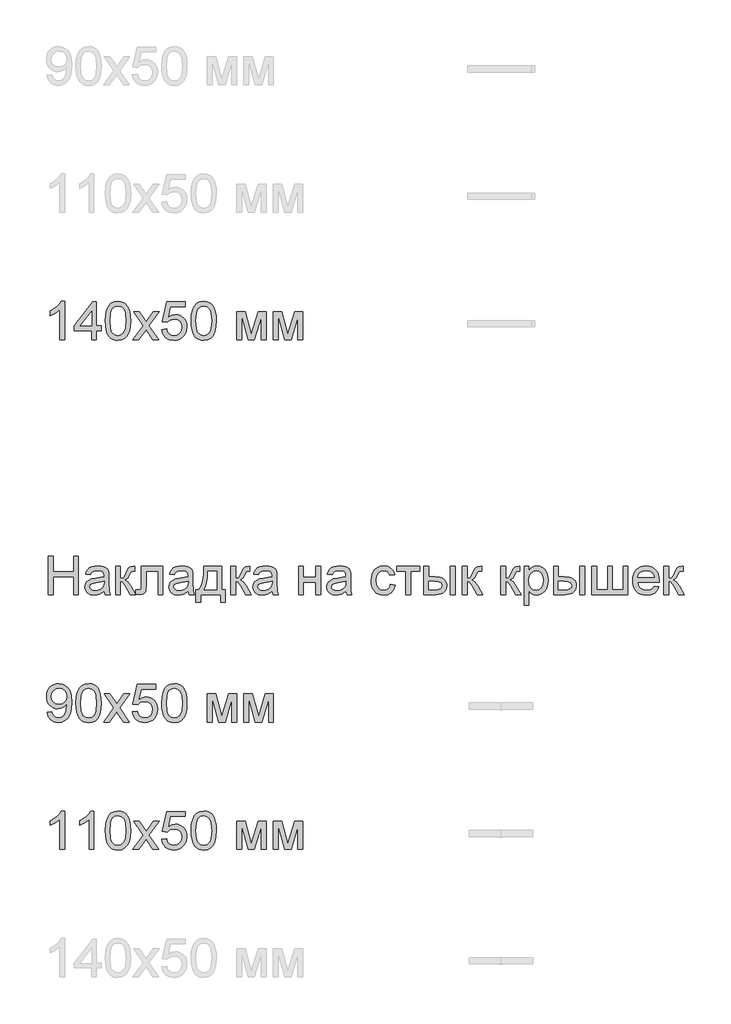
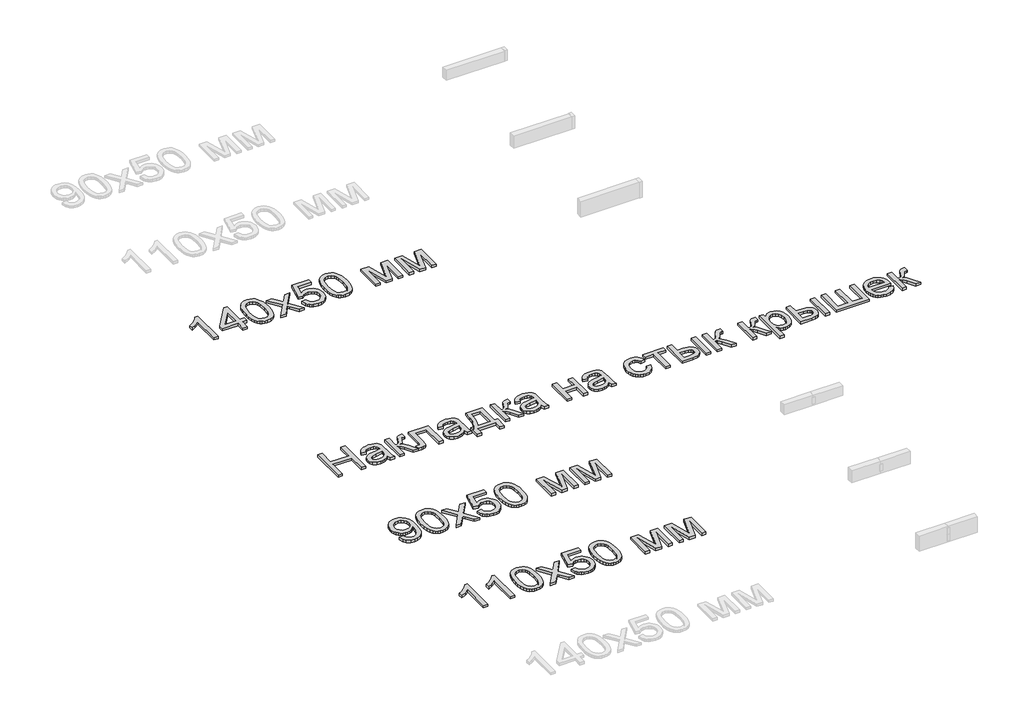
# One storey, part 85 of 168: 4 proxies.
"""IFC4 building model written with IfcOpenShell, lengths in millimetres."""

from ifc_helpers import new_model, si_unit, origin, origin_with_axes, place, context, project, spatial, polyline, outline, extrude, element, save

model = new_model("IFC4")

# Units and contexts
model_context = context("Model", 3, world=origin())
ifc_project = project(units=[si_unit("LENGTHUNIT", "METRE", prefix="MILLI")], contexts=[model_context])

# Site, building, storey
site = spatial("IfcSite", under=ifc_project)
building = spatial("IfcBuilding", under=site)
storey = spatial("IfcBuildingStorey", under=building, Name="Этаж 01", Elevation=0.0)

# Proxies
placement = place(None, origin())
element("IfcBuildingElementProxy", 1, Name="300 мм Arial 2", ObjectType="300 мм Arial 2", at=placement, inside=storey, context=model_context, shape_type="SweptSolid", body=[
    extrude(outline(polyline([(18205.9577491, -20148.4056816), (18168.2866328, -20148.4056816), (18168.2866328, -19913.5498158), (18132.6020793, -19938.9704617), (18092.9444002, -19957.9899609), (18092.9444002, -19922.3789837), (18122.5313096, -19906.2841464), (18148.1634877, -19887.1358886), (18168.3694062, -19866.7736202), (18181.6775374, -19847.0367511), (18205.9577491, -19847.0367511), (18205.9577491, -20148.4056816)])), origin_with_axes(), (0.0, 0.0, 1.0), 20.0),
    extrude(outline(polyline([(18417.8577783, -20148.4056816), (18417.8577783, -20077.7723385), (18281.2999817, -20077.7723385), (18281.2999817, -20040.1012222), (18427.2755574, -19851.7456407), (18455.5288946, -19851.7456407), (18455.5288946, -20040.1012222), (18493.2000109, -20040.1012222), (18493.2000109, -20077.7723385), (18455.5288946, -20077.7723385), (18455.5288946, -20148.4056816), (18417.8577783, -20148.4056816)]), holes=[polyline([(18417.8577783, -20040.1012222), (18417.8577783, -19923.7033589), (18327.6531131, -20040.1012222), (18417.8577783, -20040.1012222)])]), origin_with_axes(), (0.0, 0.0, 1.0), 20.0),
    extrude(outline(polyline([(18526.1622377, -20000.1492375), (18528.9305497, -19951.9107109), (18537.2354858, -19913.4394512), (18550.9942724, -19884.1468474), (18570.1241361, -19863.4442881), (18594.7630327, -19851.1386354), (18625.048918, -19847.0367511), (18648.2622719, -19849.4647723), (18669.0476046, -19856.7488358), (18686.4300289, -19868.6038331), (18699.4346574, -19884.7446556), (18709.2571067, -19905.0333477), (18717.0929932, -19929.3319534), (18722.224947, -19960.1880558), (18723.9355983, -20000.1492375), (18721.1948774, -20048.1118526), (18712.9727148, -20086.4911418), (18699.2967017, -20115.8113368), (18680.1944291, -20136.5966695), (18655.5003502, -20148.9850957), (18625.048918, -20153.1145711), (18604.3003735, -20151.3211464), (18585.9062737, -20145.9408722), (18569.8666187, -20136.9737486), (18556.1814085, -20124.4197755), (18543.0480213, -20101.7260549), (18533.6670304, -20073.4497251), (18528.0384359, -20039.5907859), (18526.1622377, -20000.1492375)]), holes=[polyline([(18563.833354, -20000.0756611), (18568.2479379, -20059.3322535), (18573.7661679, -20079.6002522), (18581.4916898, -20093.6280525), (18601.2101647, -20109.9896042), (18625.048918, -20115.4434548), (18648.8876713, -20109.9712101), (18668.6061462, -20093.5544761), (18676.3316681, -20079.5036831), (18681.8498981, -20059.240283), (18686.264482, -20000.0756611), (18681.9970509, -19942.152641), (18676.6627619, -19921.9513209), (18669.1947574, -19907.5901275), (18649.5130707, -19890.4284325), (18624.6074596, -19884.7078674), (18601.0262237, -19889.7478508), (18582.080301, -19904.8678008), (18574.0972617, -19920.5027856), (18568.3950907, -19941.5824239), (18563.833354, -20000.0756611)])]), origin_with_axes(), (0.0, 0.0, 1.0), 20.0),
    extrude(outline(polyline([(18742.7711565, -20148.4056816), (18823.263737, -20037.1581662), (18747.480046, -19927.0878733), (18792.8031078, -19927.0878733), (18829.3705781, -19980.0628806), (18846.4403027, -20005.0788562), (18861.2291589, -19984.6246173), (18902.8734008, -19927.0878733), (18948.1964626, -19927.0878733), (18868.5867988, -20037.1581662), (18945.2534066, -20148.4056816), (18899.9303448, -20148.4056816), (18853.7979426, -20081.5247348), (18845.3366567, -20069.3110526), (18788.0942183, -20148.4056816), (18742.7711565, -20148.4056816)])), origin_with_axes(), (0.0, 0.0, 1.0), 20.0),
    extrude(outline(polyline([(18968.7978543, -20068.3545594), (19006.4689706, -20063.6456699), (19013.3851521, -20086.2612155), (19025.4516816, -20102.4572204), (19042.6133766, -20112.1968962), (19064.815055, -20115.4434548), (19091.8175935, -20110.9277033), (19112.0511032, -20097.3804488), (19124.6878498, -20076.3651899), (19128.9000986, -20049.4454249), (19124.9545642, -20024.0983554), (19113.117961, -20004.7109743), (19093.2983185, -19992.4053215), (19065.4036662, -19988.3034373), (19047.1291281, -19989.9405121), (19032.3310749, -19994.8517368), (19011.1778601, -20011.847885), (18973.5067438, -20007.1389954), (19006.4689706, -19851.7456407), (19152.4445463, -19851.7456407), (19152.4445463, -19889.416757), (19036.9295998, -19889.416757), (19020.8163684, -19972.4109351), (19047.7269364, -19956.0769745), (19075.9250913, -19950.632321), (19094.2709065, -19952.3199796), (19111.1222012, -19957.3829556), (19126.4789752, -19965.8212488), (19140.3412286, -19977.6348594), (19151.8168476, -19992.1018189), (19160.0137183, -20008.5001588), (19164.9318408, -20026.8298792), (19166.5712149, -20047.0909801), (19160.6667089, -20084.7620964), (19153.2860764, -20101.5559095), (19142.9531908, -20116.9885592), (19127.2998119, -20132.7936894), (19109.0344709, -20144.0830681), (19088.1571676, -20150.8566954), (19064.6679022, -20153.1145711), (19027.6681706, -20147.3112326), (19011.9894998, -20140.0570595), (18998.1916257, -20129.9012172), (18986.7114082, -20117.3495434), (18977.9857071, -20102.9078758), (18968.7978543, -20068.3545594)])), origin_with_axes(), (0.0, 0.0, 1.0), 20.0),
    extrude(outline(polyline([(19199.5334417, -20000.1492375), (19202.3017537, -19951.9107109), (19210.6066897, -19913.4394512), (19224.3654763, -19884.1468474), (19243.4953401, -19863.4442881), (19268.1342367, -19851.1386354), (19298.420122, -19847.0367511), (19321.6334759, -19849.4647723), (19342.4188086, -19856.7488358), (19359.8012329, -19868.6038331), (19372.8058614, -19884.7446556), (19382.6283107, -19905.0333477), (19390.4641972, -19929.3319534), (19395.596151, -19960.1880558), (19397.3068023, -20000.1492375), (19394.5660814, -20048.1118526), (19386.3439188, -20086.4911418), (19372.6679056, -20115.8113368), (19353.565633, -20136.5966695), (19328.8715541, -20148.9850957), (19298.420122, -20153.1145711), (19277.6715774, -20151.3211464), (19259.2774777, -20145.9408722), (19243.2378227, -20136.9737486), (19229.5526125, -20124.4197755), (19216.4192252, -20101.7260549), (19207.0382344, -20073.4497251), (19201.4096398, -20039.5907859), (19199.5334417, -20000.1492375)]), holes=[polyline([(19237.204558, -20000.0756611), (19241.6191419, -20059.3322535), (19247.1373718, -20079.6002522), (19254.8628937, -20093.6280525), (19274.5813687, -20109.9896042), (19298.420122, -20115.4434548), (19322.2588753, -20109.9712101), (19341.9773502, -20093.5544761), (19349.7028721, -20079.5036831), (19355.221102, -20059.240283), (19359.635686, -20000.0756611), (19355.3682548, -19942.152641), (19350.0339659, -19921.9513209), (19342.5659614, -19907.5901275), (19322.8842747, -19890.4284325), (19297.9786636, -19884.7078674), (19274.3974277, -19889.7478508), (19255.4515049, -19904.8678008), (19247.4684656, -19920.5027856), (19241.7662947, -19941.5824239), (19237.204558, -20000.0756611)])]), origin_with_axes(), (0.0, 0.0, 1.0), 20.0),
    extrude(outline(polyline([(19557.4090466, -19927.0878733), (19622.2298541, -19927.0878733), (19672.1882291, -20104.2598421), (19726.0461532, -19927.0878733), (19788.144634, -19927.0878733), (19788.144634, -20148.4056816), (19750.4735176, -20148.4056816), (19750.4735176, -19970.2036431), (19696.321288, -20148.4056816), (19646.8779478, -20148.4056816), (19595.0801629, -19961.6687808), (19595.0801629, -20148.4056816), (19557.4090466, -20148.4056816), (19557.4090466, -19927.0878733)])), origin_with_axes(), (0.0, 0.0, 1.0), 20.0),
    extrude(outline(polyline([(19844.6513084, -19927.0878733), (19909.472116, -19927.0878733), (19959.4304909, -20104.2598421), (20013.288415, -19927.0878733), (20075.3868958, -19927.0878733), (20075.3868958, -20148.4056816), (20037.7157795, -20148.4056816), (20037.7157795, -19970.2036431), (19983.5635498, -20148.4056816), (19934.1202096, -20148.4056816), (19882.3224247, -19961.6687808), (19882.3224247, -20148.4056816), (19844.6513084, -20148.4056816), (19844.6513084, -19927.0878733)])), origin_with_axes(), (0.0, 0.0, 1.0), 20.0),
])
element("IfcBuildingElementProxy", 2, Name="300 мм Arial 2", ObjectType="300 мм Arial 2", at=placement, inside=storey, context=model_context, shape_type="SweptSolid", body=[
    extrude(outline(polyline([(18078.8177316, -22148.4056816), (18078.8177316, -21847.0367511), (18116.4888479, -21847.0367511), (18116.4888479, -21969.4678791), (18276.5910922, -21969.4678791), (18276.5910922, -21847.0367511), (18314.2622085, -21847.0367511), (18314.2622085, -22148.4056816), (18276.5910922, -22148.4056816), (18276.5910922, -22007.1389954), (18116.4888479, -22007.1389954), (18116.4888479, -22148.4056816), (18078.8177316, -22148.4056816)])), origin_with_axes(), (0.0, 0.0, 1.0), 20.0),
    extrude(outline(polyline([(18516.7444586, -22120.1523443), (18498.745832, -22135.584994), (18480.2137765, -22145.6833548), (18460.7252278, -22151.256767), (18439.8571216, -22153.1145711), (18408.3756199, -22148.6448049), (18385.1530689, -22135.2355061), (18370.8332623, -22114.8732377), (18366.0599934, -22089.5445623), (18367.8626152, -22073.9279716), (18373.2704805, -22059.7461207), (18381.6122047, -22047.6060149), (18392.2164033, -22038.1146594), (18418.5935423, -22025.7538244), (18451.1878871, -22020.0884417), (18489.705132, -22014.1287533), (18516.5237294, -22007.1389954), (18516.7444586, -21998.7512859), (18514.1508906, -21981.9390788), (18506.3701864, -21970.9394071), (18488.969368, -21962.7724268), (18464.7259445, -21960.0501), (18442.2851428, -21961.8619189), (18426.6133698, -21967.2973753), (18415.9263978, -21977.3497509), (18408.4399992, -21993.0123268), (18370.7688829, -21988.3034373), (18377.3079854, -21967.7020455), (18387.0660553, -21951.5152378), (18400.9536006, -21939.1360086), (18419.8811293, -21929.9573528), (18443.0301038, -21924.273576), (18469.5819868, -21922.3789837), (18495.048618, -21924.0528468), (18515.2361424, -21929.074436), (18530.45726, -21936.625214), (18541.0246703, -21945.8866432), (18548.0328223, -21957.3369703), (18552.576165, -21971.4544419), (18554.4155749, -22004.4166687), (18554.4155749, -22051.2848348), (18556.3285613, -22116.7310418), (18563.833354, -22148.4056816), (18526.1622377, -22148.4056816), (18516.7444586, -22120.1523443)]), holes=[polyline([(18516.7444586, -22044.8101117), (18455.970353, -22056.3616064), (18423.5599492, -22062.4684475), (18408.8814576, -22072.4012614), (18403.7311097, -22086.895812), (18406.5362099, -22098.0978187), (18414.9515106, -22107.2764745), (18428.7930706, -22113.4017097), (18447.8769491, -22115.4434548), (18468.1104589, -22113.1901776), (18485.9895238, -22106.4303459), (18500.4840744, -22096.4699409), (18510.5640411, -22084.6149436), (18515.0338073, -22072.4012614), (18516.5237294, -22055.4786896), (18516.7444586, -22044.8101117)])]), origin_with_axes(), (0.0, 0.0, 1.0), 20.0),
    extrude(outline(polyline([(18606.2133598, -21927.0878733), (18643.8844762, -21927.0878733), (18643.8844762, -22021.265664), (18659.2067613, -22019.5734069), (18669.121181, -22014.4966353), (18677.8951666, -22001.2528835), (18689.7961492, -21975.0596854), (18706.9762383, -21941.0306009), (18722.1329765, -21929.9573528), (18749.687338, -21927.0878733), (18756.8978251, -21927.0878733), (18756.8978251, -21964.9797188), (18746.744282, -21964.7589896), (18728.3501822, -21968.7321151), (18715.400736, -21993.5273616), (18700.2072096, -22020.345959), (18678.9068421, -22033.4793463), (18690.8446128, -22038.7814455), (18702.672019, -22048.1394438), (18725.9957375, -22079.0231373), (18766.3156041, -22148.4056816), (18723.4941399, -22148.4056816), (18683.9836136, -22080.4946653), (18664.1179859, -22051.7630814), (18654.8289655, -22046.5483542), (18643.8844762, -22044.8101117), (18643.8844762, -22148.4056816), (18606.2133598, -22148.4056816), (18606.2133598, -21927.0878733)])), origin_with_axes(), (0.0, 0.0, 1.0), 20.0),
    extrude(outline(polyline([(18808.69561, -21927.0878733), (18978.2156334, -21927.0878733), (18978.2156334, -22148.1849524), (18940.5445171, -22148.1849524), (18940.5445171, -21964.7589896), (18846.3667263, -21964.7589896), (18846.3667263, -22070.3411222), (18843.8283405, -22119.0486984), (18839.0734657, -22130.0759612), (18829.8856129, -22139.6133019), (18815.9428853, -22146.2075866), (18796.9233861, -22148.4056816), (18766.3156041, -22146.4926952), (18766.3156041, -22110.7345653), (18783.1645995, -22110.7345653), (18800.1975359, -22108.4169087), (18807.0033528, -22101.0592688), (18808.69561, -22068.2074066), (18808.69561, -21927.0878733)])), origin_with_axes(), (0.0, 0.0, 1.0), 20.0),
    extrude(outline(polyline([(19175.988994, -22120.1523443), (19157.9903674, -22135.584994), (19139.4583119, -22145.6833548), (19119.9697632, -22151.256767), (19099.101657, -22153.1145711), (19067.6201552, -22148.6448049), (19044.3976043, -22135.2355061), (19030.0777976, -22114.8732377), (19025.3045288, -22089.5445623), (19027.1071505, -22073.9279716), (19032.5150159, -22059.7461207), (19040.8567401, -22047.6060149), (19051.4609386, -22038.1146594), (19077.8380777, -22025.7538244), (19110.4324224, -22020.0884417), (19148.9496673, -22014.1287533), (19175.7682648, -22007.1389954), (19175.988994, -21998.7512859), (19173.3954259, -21981.9390788), (19165.6147217, -21970.9394071), (19148.2139033, -21962.7724268), (19123.9704799, -21960.0501), (19101.5296782, -21961.8619189), (19085.8579052, -21967.2973753), (19075.1709332, -21977.3497509), (19067.6845346, -21993.0123268), (19030.0134183, -21988.3034373), (19036.5525208, -21967.7020455), (19046.3105907, -21951.5152378), (19060.198136, -21939.1360086), (19079.1256646, -21929.9573528), (19102.2746392, -21924.273576), (19128.8265222, -21922.3789837), (19154.2931533, -21924.0528468), (19174.4806778, -21929.074436), (19189.7017953, -21936.625214), (19200.2692057, -21945.8866432), (19207.2773577, -21957.3369703), (19211.8207003, -21971.4544419), (19213.6601103, -22004.4166687), (19213.6601103, -22051.2848348), (19215.5730967, -22116.7310418), (19223.0778894, -22148.4056816), (19185.4067731, -22148.4056816), (19175.988994, -22120.1523443)]), holes=[polyline([(19175.988994, -22044.8101117), (19115.2148884, -22056.3616064), (19082.8044846, -22062.4684475), (19068.125993, -22072.4012614), (19062.9756451, -22086.895812), (19065.7807453, -22098.0978187), (19074.1960459, -22107.2764745), (19088.037606, -22113.4017097), (19107.1214845, -22115.4434548), (19127.3549942, -22113.1901776), (19145.2340592, -22106.4303459), (19159.7286098, -22096.4699409), (19169.8085765, -22084.6149436), (19174.2783427, -22072.4012614), (19175.7682648, -22055.4786896), (19175.988994, -22044.8101117)])]), origin_with_axes(), (0.0, 0.0, 1.0), 20.0),
    extrude(outline(polyline([(19298.420122, -21927.0878733), (19439.6868081, -21927.0878733), (19439.6868081, -22110.7345653), (19467.9401454, -22110.7345653), (19467.9401454, -22209.6212456), (19430.269029, -22209.6212456), (19430.269029, -22148.4056816), (19274.8756743, -22148.4056816), (19274.8756743, -22209.6212456), (19237.204558, -22209.6212456), (19237.204558, -22110.7345653), (19260.7490057, -22110.7345653), (19277.8647155, -22079.8048865), (19289.8484715, -22038.8872116), (19296.7002736, -21987.9815405), (19298.420122, -21927.0878733)]), holes=[polyline([(19331.3823487, -21964.7589896), (19328.29214, -22010.8821947), (19322.5531809, -22050.5858591), (19314.1654714, -22083.8699826), (19303.1290115, -22110.7345653), (19402.0156918, -22110.7345653), (19402.0156918, -21964.7589896), (19331.3823487, -21964.7589896)])]), origin_with_axes(), (0.0, 0.0, 1.0), 20.0),
    extrude(outline(polyline([(19510.3201512, -21927.0878733), (19547.9912675, -21927.0878733), (19547.9912675, -22021.265664), (19563.3135526, -22019.5734069), (19573.2279724, -22014.4966353), (19582.001958, -22001.2528835), (19593.9029405, -21975.0596854), (19611.0830297, -21941.0306009), (19626.2397679, -21929.9573528), (19653.7941293, -21927.0878733), (19661.0046164, -21927.0878733), (19661.0046164, -21964.9797188), (19650.8510734, -21964.7589896), (19632.4569736, -21968.7321151), (19619.5075274, -21993.5273616), (19604.314001, -22020.345959), (19583.0136334, -22033.4793463), (19594.9514042, -22038.7814455), (19606.7788103, -22048.1394438), (19630.1025288, -22079.0231373), (19670.4223955, -22148.4056816), (19627.6009313, -22148.4056816), (19588.090405, -22080.4946653), (19568.2247772, -22051.7630814), (19558.9357569, -22046.5483542), (19547.9912675, -22044.8101117), (19547.9912675, -22148.4056816), (19510.3201512, -22148.4056816), (19510.3201512, -21927.0878733)])), origin_with_axes(), (0.0, 0.0, 1.0), 20.0),
    extrude(outline(polyline([(19835.2335293, -22120.1523443), (19817.2349027, -22135.584994), (19798.7028472, -22145.6833548), (19779.2142985, -22151.256767), (19758.3461923, -22153.1145711), (19726.8646906, -22148.6448049), (19703.6421397, -22135.2355061), (19689.322333, -22114.8732377), (19684.5490641, -22089.5445623), (19686.3516859, -22073.9279716), (19691.7595512, -22059.7461207), (19700.1012755, -22047.6060149), (19710.705474, -22038.1146594), (19737.082613, -22025.7538244), (19769.6769578, -22020.0884417), (19808.1942027, -22014.1287533), (19835.0128001, -22007.1389954), (19835.2335293, -21998.7512859), (19832.6399613, -21981.9390788), (19824.8592571, -21970.9394071), (19807.4584387, -21962.7724268), (19783.2150152, -21960.0501), (19760.7742135, -21961.8619189), (19745.1024405, -21967.2973753), (19734.4154686, -21977.3497509), (19726.92907, -21993.0123268), (19689.2579536, -21988.3034373), (19695.7970561, -21967.7020455), (19705.555126, -21951.5152378), (19719.4426714, -21939.1360086), (19738.3702, -21929.9573528), (19761.5191746, -21924.273576), (19788.0710576, -21922.3789837), (19813.5376887, -21924.0528468), (19833.7252132, -21929.074436), (19848.9463307, -21936.625214), (19859.513741, -21945.8866432), (19866.521893, -21957.3369703), (19871.0652357, -21971.4544419), (19872.9046456, -22004.4166687), (19872.9046456, -22051.2848348), (19874.817632, -22116.7310418), (19882.3224247, -22148.4056816), (19844.6513084, -22148.4056816), (19835.2335293, -22120.1523443)]), holes=[polyline([(19835.2335293, -22044.8101117), (19774.4594237, -22056.3616064), (19742.04902, -22062.4684475), (19727.3705283, -22072.4012614), (19722.2201804, -22086.895812), (19725.0252806, -22098.0978187), (19733.4405813, -22107.2764745), (19747.2821413, -22113.4017097), (19766.3660198, -22115.4434548), (19786.5995296, -22113.1901776), (19804.4785945, -22106.4303459), (19818.9731451, -22096.4699409), (19829.0531118, -22084.6149436), (19833.5228781, -22072.4012614), (19835.0128001, -22055.4786896), (19835.2335293, -22044.8101117)])]), origin_with_axes(), (0.0, 0.0, 1.0), 20.0),
    extrude(outline(polyline([(20042.424669, -21927.0878733), (20080.0957853, -21927.0878733), (20080.0957853, -22011.847885), (20178.9824656, -22011.847885), (20178.9824656, -21927.0878733), (20216.6535819, -21927.0878733), (20216.6535819, -22148.4056816), (20178.9824656, -22148.4056816), (20178.9824656, -22049.5190013), (20080.0957853, -22049.5190013), (20080.0957853, -22148.4056816), (20042.424669, -22148.4056816), (20042.424669, -21927.0878733)])), origin_with_axes(), (0.0, 0.0, 1.0), 20.0),
    extrude(outline(polyline([(20414.4269425, -22120.1523443), (20396.4283159, -22135.584994), (20377.8962604, -22145.6833548), (20358.4077117, -22151.256767), (20337.5396055, -22153.1145711), (20306.0581038, -22148.6448049), (20282.8355529, -22135.2355061), (20268.5157462, -22114.8732377), (20263.7424773, -22089.5445623), (20265.5450991, -22073.9279716), (20270.9529644, -22059.7461207), (20279.2946887, -22047.6060149), (20289.8988872, -22038.1146594), (20316.2760262, -22025.7538244), (20348.870371, -22020.0884417), (20387.3876159, -22014.1287533), (20414.2062133, -22007.1389954), (20414.4269425, -21998.7512859), (20411.8333745, -21981.9390788), (20404.0526703, -21970.9394071), (20386.6518519, -21962.7724268), (20362.4084284, -21960.0501), (20339.9676267, -21961.8619189), (20324.2958537, -21967.2973753), (20313.6088818, -21977.3497509), (20306.1224832, -21993.0123268), (20268.4513669, -21988.3034373), (20274.9904693, -21967.7020455), (20284.7485392, -21951.5152378), (20298.6360846, -21939.1360086), (20317.5636132, -21929.9573528), (20340.7125878, -21924.273576), (20367.2644708, -21922.3789837), (20392.7311019, -21924.0528468), (20412.9186264, -21929.074436), (20428.1397439, -21936.625214), (20438.7071542, -21945.8866432), (20445.7153062, -21957.3369703), (20450.2586489, -21971.4544419), (20452.0980588, -22004.4166687), (20452.0980588, -22051.2848348), (20454.0110452, -22116.7310418), (20461.5158379, -22148.4056816), (20423.8447216, -22148.4056816), (20414.4269425, -22120.1523443)]), holes=[polyline([(20414.4269425, -22044.8101117), (20353.6528369, -22056.3616064), (20321.2424332, -22062.4684475), (20306.5639416, -22072.4012614), (20301.4135936, -22086.895812), (20304.2186938, -22098.0978187), (20312.6339945, -22107.2764745), (20326.4755545, -22113.4017097), (20345.559433, -22115.4434548), (20365.7929428, -22113.1901776), (20383.6720077, -22106.4303459), (20398.1665584, -22096.4699409), (20408.246525, -22084.6149436), (20412.7162913, -22072.4012614), (20414.2062133, -22055.4786896), (20414.4269425, -22044.8101117)])]), origin_with_axes(), (0.0, 0.0, 1.0), 20.0),
    extrude(outline(polyline([(20762.8847684, -22068.3545594), (20800.5558847, -22073.063449), (20790.0528537, -22106.5683017), (20770.3159847, -22131.88778), (20743.2030816, -22147.8078733), (20710.5719487, -22153.1145711), (20689.4440258, -22151.2636648), (20670.5004023, -22145.710946), (20653.7410782, -22136.4564145), (20639.1660534, -22123.5000705), (20627.3685377, -22107.0856357), (20618.9417407, -22087.456832), (20613.8856625, -22064.6136594), (20612.2003031, -22038.5561178), (20615.0789798, -22005.032871), (20623.7150096, -21975.9793904), (20638.2463484, -21952.5177162), (20658.8109519, -21935.7698884), (20683.4130604, -21925.7267099), (20710.0569139, -21922.3789837), (20741.8879035, -21926.9775087), (20767.3361405, -21940.7730835), (20785.5922845, -21963.0299442), (20795.8469951, -21993.0123268), (20758.1758788, -21997.7212163), (20751.3424708, -21981.2860882), (20740.7014841, -21969.5046673), (20726.8415299, -21962.4137419), (20710.3512195, -21960.0501), (20686.0066284, -21964.7038073), (20666.6836266, -21978.664929), (20654.0744712, -22002.6876233), (20649.8714195, -22037.5260482), (20653.9825008, -22072.8335227), (20666.3157446, -22096.9389904), (20685.2892585, -22110.8173387), (20709.3211499, -22115.4434548), (20728.8280927, -22112.5555811), (20744.8217624, -22103.8919602), (20756.4560305, -22089.2318626), (20762.8847684, -22068.3545594)])), origin_with_axes(), (0.0, 0.0, 1.0), 20.0),
    extrude(outline(polyline([(20814.6825533, -21927.0878733), (20993.6203557, -21927.0878733), (20993.6203557, -21964.7589896), (20922.9870127, -21964.7589896), (20922.9870127, -22148.4056816), (20885.3158964, -22148.4056816), (20885.3158964, -21964.7589896), (20814.6825533, -21964.7589896), (20814.6825533, -21927.0878733)])), origin_with_axes(), (0.0, 0.0, 1.0), 20.0),
    extrude(outline(polyline([(21233.7737222, -21927.0878733), (21271.4448385, -21927.0878733), (21271.4448385, -22148.4056816), (21233.7737222, -22148.4056816), (21233.7737222, -21927.0878733)])), origin_with_axes(), (0.0, 0.0, 1.0), 20.0),
    extrude(outline(polyline([(21026.5825825, -21927.0878733), (21064.2536988, -21927.0878733), (21064.2536988, -22007.1389954), (21110.8275594, -22007.1389954), (21151.0830467, -22011.857082), (21167.2997449, -22017.7546902), (21180.9090795, -22026.0113418), (21191.6765256, -22036.3419281), (21199.3675586, -22048.4613405), (21203.9821784, -22062.3695792), (21205.520385, -22078.0666441), (21200.36084, -22105.0231973), (21184.882205, -22127.7675016), (21173.02031, -22136.7967054), (21158.0728046, -22143.2461366), (21118.9209633, -22148.4056816), (21026.5825825, -22148.4056816), (21026.5825825, -21927.0878733)]), holes=[polyline([(21064.2536988, -22110.7345653), (21102.9548847, -22110.7345653), (21132.9556614, -22108.7571995), (21152.9132597, -22102.8251024), (21164.1152664, -22092.6991504), (21167.8492687, -22078.1402205), (21165.0809566, -22065.8345678), (21156.7760206, -22054.9636548), (21139.0165173, -22047.3484975), (21107.8845034, -22044.8101117), (21064.2536988, -22044.8101117), (21064.2536988, -22110.7345653)])]), origin_with_axes(), (0.0, 0.0, 1.0), 20.0),
    extrude(outline(polyline([(21327.951513, -21927.0878733), (21365.6226293, -21927.0878733), (21365.6226293, -22021.265664), (21380.9449144, -22019.5734069), (21390.8593341, -22014.4966353), (21399.6333197, -22001.2528835), (21411.5343023, -21975.0596854), (21428.7143914, -21941.0306009), (21443.8711296, -21929.9573528), (21471.4254911, -21927.0878733), (21478.6359782, -21927.0878733), (21478.6359782, -21964.9797188), (21468.4824351, -21964.7589896), (21450.0883354, -21968.7321151), (21437.1388891, -21993.5273616), (21421.9453627, -22020.345959), (21400.6449952, -22033.4793463), (21412.582766, -22038.7814455), (21424.4101721, -22048.1394438), (21447.7338906, -22079.0231373), (21488.0537573, -22148.4056816), (21445.232293, -22148.4056816), (21405.7217667, -22080.4946653), (21385.856139, -22051.7630814), (21376.5671186, -22046.5483542), (21365.6226293, -22044.8101117), (21365.6226293, -22148.4056816), (21327.951513, -22148.4056816), (21327.951513, -21927.0878733)])), origin_with_axes(), (0.0, 0.0, 1.0), 20.0),
    extrude(outline(polyline([(21629.3204434, -21927.0878733), (21666.9915597, -21927.0878733), (21666.9915597, -22021.265664), (21682.3138448, -22019.5734069), (21692.2282646, -22014.4966353), (21701.0022502, -22001.2528835), (21712.9032327, -21975.0596854), (21730.0833219, -21941.0306009), (21745.2400601, -21929.9573528), (21772.7944215, -21927.0878733), (21780.0049086, -21927.0878733), (21780.0049086, -21964.9797188), (21769.8513656, -21964.7589896), (21751.4572658, -21968.7321151), (21738.5078196, -21993.5273616), (21723.3142932, -22020.345959), (21702.0139257, -22033.4793463), (21713.9516964, -22038.7814455), (21725.7791025, -22048.1394438), (21749.102821, -22079.0231373), (21789.4226877, -22148.4056816), (21746.6012235, -22148.4056816), (21707.0906972, -22080.4946653), (21687.2250695, -22051.7630814), (21677.9360491, -22046.5483542), (21666.9915597, -22044.8101117), (21666.9915597, -22148.4056816), (21629.3204434, -22148.4056816), (21629.3204434, -21927.0878733)])), origin_with_axes(), (0.0, 0.0, 1.0), 20.0),
    extrude(outline(polyline([(21812.9671354, -22233.1656933), (21812.9671354, -21927.0878733), (21850.6382517, -21927.0878733), (21850.6382517, -21964.0232256), (21862.9255104, -21945.8038698), (21876.684297, -21932.7900442), (21892.723952, -21924.9817488), (21911.8538157, -21922.3789837), (21937.3296439, -21926.0210155), (21959.6048987, -21936.9471107), (21977.741481, -21954.4950819), (21990.8012919, -21978.0027414), (21998.6923607, -22005.7594379), (22001.3227169, -22036.0545202), (21998.3520698, -22068.271786), (21989.4401285, -22097.0861432), (21974.8720015, -22121.0352611), (21954.9327973, -22138.6568087), (21931.7102464, -22149.5001305), (21907.292079, -22153.1145711), (21889.974034, -22150.695747), (21874.5137932, -22143.4392746), (21861.2792384, -22132.4855882), (21850.6382517, -22118.975122), (21850.6382517, -22233.1656933), (21812.9671354, -22233.1656933)]), holes=[polyline([(21850.6382517, -22039.512611), (21854.7125448, -22073.2841782), (21866.9354241, -22096.9022022), (21884.9708389, -22110.8081417), (21906.4827386, -22115.4434548), (21928.3441261, -22110.6425948), (21946.8393934, -22096.2400147), (21959.4485488, -22071.7574679), (21963.6516006, -22036.7167078), (21959.5497164, -22003.1290817), (21947.2440636, -21979.1799638), (21929.23624, -21964.832566), (21908.027843, -21960.0501), (21886.7366725, -21965.1360686), (21868.0390701, -21980.3939744), (21854.9884563, -22005.3455707), (21850.6382517, -22039.512611)])]), origin_with_axes(), (0.0, 0.0, 1.0), 20.0),
    extrude(outline(polyline([(22250.8938625, -21927.0878733), (22288.5649788, -21927.0878733), (22288.5649788, -22148.4056816), (22250.8938625, -22148.4056816), (22250.8938625, -21927.0878733)])), origin_with_axes(), (0.0, 0.0, 1.0), 20.0),
    extrude(outline(polyline([(22043.7027228, -21927.0878733), (22081.3738391, -21927.0878733), (22081.3738391, -22007.1389954), (22127.9476997, -22007.1389954), (22168.203187, -22011.857082), (22184.4198852, -22017.7546902), (22198.0292198, -22026.0113418), (22208.7966659, -22036.3419281), (22216.4876989, -22048.4613405), (22221.1023186, -22062.3695792), (22222.6405252, -22078.0666441), (22217.4809803, -22105.0231973), (22202.0023453, -22127.7675016), (22190.1404502, -22136.7967054), (22175.1929449, -22143.2461366), (22136.0411036, -22148.4056816), (22043.7027228, -22148.4056816), (22043.7027228, -21927.0878733)]), holes=[polyline([(22081.3738391, -22110.7345653), (22120.075025, -22110.7345653), (22150.0758017, -22108.7571995), (22170.0333999, -22102.8251024), (22181.2354067, -22092.6991504), (22184.9694089, -22078.1402205), (22182.2010969, -22065.8345678), (22173.8961609, -22054.9636548), (22156.1366576, -22047.3484975), (22125.0046437, -22044.8101117), (22081.3738391, -22044.8101117), (22081.3738391, -22110.7345653)])]), origin_with_axes(), (0.0, 0.0, 1.0), 20.0),
    extrude(outline(polyline([(22345.0716532, -21927.0878733), (22382.7427695, -21927.0878733), (22382.7427695, -22110.7345653), (22467.5027812, -22110.7345653), (22467.5027812, -21927.0878733), (22505.1738975, -21927.0878733), (22505.1738975, -22110.7345653), (22589.9339092, -22110.7345653), (22589.9339092, -21927.0878733), (22627.6050255, -21927.0878733), (22627.6050255, -22148.4056816), (22345.0716532, -22148.4056816), (22345.0716532, -21927.0878733)])), origin_with_axes(), (0.0, 0.0, 1.0), 20.0),
    extrude(outline(polyline([(22834.3547068, -22082.481228), (22871.2900591, -22087.1901176), (22857.981928, -22115.0203905), (22836.7459398, -22135.8241173), (22808.0603412, -22148.7919577), (22772.4033788, -22153.1145711), (22749.0290766, -22151.2498692), (22728.2023571, -22145.6557637), (22709.9232205, -22136.3322543), (22694.1916667, -22123.2793413), (22681.5411245, -22106.860308), (22672.505023, -22087.4384379), (22667.0833621, -22065.013731), (22665.2761418, -22039.5861874), (22667.1017562, -22013.2964203), (22672.5785994, -21990.1244531), (22681.7066714, -21970.0702859), (22694.4859722, -21953.1339185), (22710.1761393, -21939.6786346), (22728.0368102, -21930.0677174), (22748.0679848, -21924.3011672), (22770.2696633, -21922.3789837), (22791.756271, -21924.2965686), (22811.1873382, -21930.0493233), (22828.5628647, -21939.6372478), (22843.8828505, -21953.0603421), (22856.3885391, -21969.9599213), (22865.3211738, -21989.9773003), (22870.6807546, -22013.1124793), (22872.4672815, -22039.3654582), (22872.2465523, -22049.5190013), (22702.9472581, -22049.5190013), (22709.4679665, -22077.7171562), (22724.6155077, -22098.4473066), (22746.4768952, -22111.1944178), (22773.1391428, -22115.4434548), (22793.1887116, -22113.4752861), (22810.0744951, -22107.5707801), (22823.7964936, -22097.3620547), (22834.3547068, -22082.481228)]), holes=[polyline([(22702.9472581, -22011.847885), (22834.7961652, -22011.847885), (22829.7009996, -21991.945469), (22819.7130034, -21977.7084358), (22797.7504483, -21964.464684), (22770.1225105, -21960.0501), (22744.7294557, -21963.5725701), (22723.7325909, -21974.1399805), (22709.1368727, -21990.6118968), (22702.9472581, -22011.847885)])]), origin_with_axes(), (0.0, 0.0, 1.0), 20.0),
    extrude(outline(polyline([(22910.1383978, -21927.0878733), (22947.8095141, -21927.0878733), (22947.8095141, -22021.265664), (22963.1317992, -22019.5734069), (22973.046219, -22014.4966353), (22981.8202046, -22001.2528835), (22993.7211871, -21975.0596854), (23010.9012763, -21941.0306009), (23026.0580145, -21929.9573528), (23053.6123759, -21927.0878733), (23060.822863, -21927.0878733), (23060.822863, -21964.9797188), (23050.66932, -21964.7589896), (23032.2752202, -21968.7321151), (23019.325774, -21993.5273616), (23004.1322476, -22020.345959), (22982.8318801, -22033.4793463), (22994.7696508, -22038.7814455), (23006.597057, -22048.1394438), (23029.9207754, -22079.0231373), (23070.2406421, -22148.4056816), (23027.4191779, -22148.4056816), (22987.9086516, -22080.4946653), (22968.0430239, -22051.7630814), (22958.7540035, -22046.5483542), (22947.8095141, -22044.8101117), (22947.8095141, -22148.4056816), (22910.1383978, -22148.4056816), (22910.1383978, -21927.0878733)])), origin_with_axes(), (0.0, 0.0, 1.0), 20.0),
])
element("IfcBuildingElementProxy", 3, Name="300 мм Arial 2", ObjectType="300 мм Arial 2", at=placement, inside=storey, context=model_context, shape_type="SweptSolid", body=[
    extrude(outline(polyline([(18069.3999525, -23073.063449), (18107.0710688, -23068.3545594), (18113.5090037, -23089.7377004), (18123.9936406, -23104.2966303), (18138.267462, -23112.6567487), (18156.0729505, -23115.4434548), (18172.0482262, -23113.6500301), (18186.5703679, -23108.2697559), (18198.6368974, -23099.8912435), (18207.2453361, -23089.1031039), (18219.5693829, -23056.3616064), (18225.0140364, -23012.6572253), (18224.7933072, -23005.2995854), (18211.7426935, -23021.2288758), (18194.6637718, -23033.8472283), (18174.7889471, -23042.0693909), (18153.3506238, -23044.8101117), (18135.455464, -23043.1362486), (18118.9996425, -23038.1146594), (18103.9831593, -23029.745344), (18090.4060144, -23018.0283025), (18079.1557231, -23003.5751386), (18071.1198008, -22986.9974562), (18066.2982474, -22968.2952553), (18064.6910629, -22947.4685358), (18066.3764223, -22925.9474391), (18071.4325005, -22906.6336343), (18079.8592975, -22889.5271216), (18091.6568132, -22874.6279008), (18105.9927147, -22862.5567728), (18122.0346689, -22853.9345385), (18139.782676, -22848.761198), (18159.2367357, -22847.0367511), (18187.3337231, -22850.9730885), (18212.9107188, -22862.7821005), (18234.3030568, -22881.8751761), (18249.8460711, -22907.6637039), (18259.3098354, -22943.3114693), (18262.4644236, -22991.9822572), (18259.3190325, -23043.5869041), (18249.8828593, -23083.4745094), (18234.2386775, -23113.447695), (18212.4692604, -23135.3090825), (18185.5127072, -23148.663199), (18154.307117, -23153.1145711), (18122.0990483, -23147.8630556), (18096.4024909, -23132.1085092), (18078.4314555, -23106.8442132), (18069.3999525, -23073.063449)]), holes=[polyline([(18224.7933072, -22946.585619), (18220.7282112, -22921.0546085), (18208.5329231, -22901.40971), (18189.6053944, -22888.8833281), (18165.3435768, -22884.7078674), (18140.1804484, -22889.2052248), (18120.020515, -22902.697297), (18106.7767632, -22923.344674), (18102.3621793, -22949.3079458), (18106.5376399, -22972.585679), (18119.0640218, -22991.0625522), (18138.7273145, -23003.1198846), (18164.3135072, -23007.1389954), (18188.3821868, -23003.1198846), (18207.7603709, -22991.0625522), (18220.5350732, -22971.9050973), (18224.7933072, -22946.585619)])]), origin_with_axes(), (0.0, 0.0, 1.0), 20.0),
    extrude(outline(polyline([(18295.4266503, -23000.1492375), (18298.1949623, -22951.9107109), (18306.4998984, -22913.4394512), (18320.258685, -22884.1468474), (18339.3885487, -22863.4442881), (18364.0274454, -22851.1386354), (18394.3133306, -22847.0367511), (18417.5266845, -22849.4647723), (18438.3120172, -22856.7488358), (18455.6944415, -22868.6038331), (18468.6990701, -22884.7446556), (18478.5215193, -22905.0333477), (18486.3574058, -22929.3319534), (18491.4893597, -22960.1880558), (18493.2000109, -23000.1492375), (18490.4592901, -23048.1118526), (18482.2371275, -23086.4911418), (18468.5611143, -23115.8113368), (18449.4588417, -23136.5966695), (18424.7647628, -23148.9850957), (18394.3133306, -23153.1145711), (18373.5647861, -23151.3211464), (18355.1706863, -23145.9408722), (18339.1310313, -23136.9737486), (18325.4458211, -23124.4197755), (18312.3124339, -23101.7260549), (18302.931443, -23073.4497251), (18297.3028485, -23039.5907859), (18295.4266503, -23000.1492375)]), holes=[polyline([(18333.0977666, -23000.0756611), (18337.5123506, -23059.3322535), (18343.0305805, -23079.6002522), (18350.7561024, -23093.6280525), (18370.4745773, -23109.9896042), (18394.3133306, -23115.4434548), (18418.1520839, -23109.9712101), (18437.8705589, -23093.5544761), (18445.5960808, -23079.5036831), (18451.1143107, -23059.240283), (18455.5288946, -23000.0756611), (18451.2614635, -22942.152641), (18445.9271745, -22921.9513209), (18438.45917, -22907.5901275), (18418.7774833, -22890.4284325), (18393.8718722, -22884.7078674), (18370.2906363, -22889.7478508), (18351.3447136, -22904.8678008), (18343.3616743, -22920.5027856), (18337.6595034, -22941.5824239), (18333.0977666, -23000.0756611)])]), origin_with_axes(), (0.0, 0.0, 1.0), 20.0),
    extrude(outline(polyline([(18512.0355691, -23148.4056816), (18592.5281496, -23037.1581662), (18516.7444586, -22927.0878733), (18562.0675204, -22927.0878733), (18598.6349907, -22980.0628806), (18615.7047153, -23005.0788562), (18630.4935715, -22984.6246173), (18672.1378134, -22927.0878733), (18717.4608752, -22927.0878733), (18637.8512114, -23037.1581662), (18714.5178192, -23148.4056816), (18669.1947574, -23148.4056816), (18623.0623552, -23081.5247348), (18614.6010693, -23069.3110526), (18557.3586309, -23148.4056816), (18512.0355691, -23148.4056816)])), origin_with_axes(), (0.0, 0.0, 1.0), 20.0),
    extrude(outline(polyline([(18738.0622669, -23068.3545594), (18775.7333832, -23063.6456699), (18782.6495647, -23086.2612155), (18794.7160942, -23102.4572204), (18811.8777893, -23112.1968962), (18834.0794677, -23115.4434548), (18861.0820061, -23110.9277033), (18881.3155158, -23097.3804488), (18893.9522624, -23076.3651899), (18898.1645112, -23049.4454249), (18894.2189768, -23024.0983554), (18882.3823736, -23004.7109743), (18862.5627311, -22992.4053215), (18834.6680789, -22988.3034373), (18816.3935407, -22989.9405121), (18801.5954875, -22994.8517368), (18780.4422728, -23011.847885), (18742.7711565, -23007.1389954), (18775.7333832, -22851.7456407), (18921.7089589, -22851.7456407), (18921.7089589, -22889.416757), (18806.1940124, -22889.416757), (18790.080781, -22972.4109351), (18816.991349, -22956.0769745), (18845.1895039, -22950.632321), (18863.5353192, -22952.3199796), (18880.3866138, -22957.3829556), (18895.7433878, -22965.8212488), (18909.6056413, -22977.6348594), (18921.0812603, -22992.1018189), (18929.278131, -23008.5001588), (18934.1962534, -23026.8298792), (18935.8356275, -23047.0909801), (18929.9311215, -23084.7620964), (18922.550489, -23101.5559095), (18912.2176034, -23116.9885592), (18896.5642245, -23132.7936894), (18878.2988835, -23144.0830681), (18857.4215803, -23150.8566954), (18833.9323149, -23153.1145711), (18796.9325832, -23147.3112326), (18781.2539124, -23140.0570595), (18767.4560383, -23129.9012172), (18755.9758208, -23117.3495434), (18747.2501197, -23102.9078758), (18738.0622669, -23068.3545594)])), origin_with_axes(), (0.0, 0.0, 1.0), 20.0),
    extrude(outline(polyline([(18968.7978543, -23000.1492375), (18971.5661663, -22951.9107109), (18979.8711023, -22913.4394512), (18993.629889, -22884.1468474), (19012.7597527, -22863.4442881), (19037.3986493, -22851.1386354), (19067.6845346, -22847.0367511), (19090.8978885, -22849.4647723), (19111.6832212, -22856.7488358), (19129.0656455, -22868.6038331), (19142.070274, -22884.7446556), (19151.8927233, -22905.0333477), (19159.7286098, -22929.3319534), (19164.8605636, -22960.1880558), (19166.5712149, -23000.1492375), (19163.830494, -23048.1118526), (19155.6083314, -23086.4911418), (19141.9323183, -23115.8113368), (19122.8300457, -23136.5966695), (19098.1359667, -23148.9850957), (19067.6845346, -23153.1145711), (19046.9359901, -23151.3211464), (19028.5418903, -23145.9408722), (19012.5022353, -23136.9737486), (18998.8170251, -23124.4197755), (18985.6836379, -23101.7260549), (18976.302647, -23073.4497251), (18970.6740525, -23039.5907859), (18968.7978543, -23000.1492375)]), holes=[polyline([(19006.4689706, -23000.0756611), (19010.8835545, -23059.3322535), (19016.4017845, -23079.6002522), (19024.1273064, -23093.6280525), (19043.8457813, -23109.9896042), (19067.6845346, -23115.4434548), (19091.5232879, -23109.9712101), (19111.2417628, -23093.5544761), (19118.9672847, -23079.5036831), (19124.4855147, -23059.240283), (19128.9000986, -23000.0756611), (19124.6326675, -22942.152641), (19119.2983785, -22921.9513209), (19111.830374, -22907.5901275), (19092.1486873, -22890.4284325), (19067.2430762, -22884.7078674), (19043.6618403, -22889.7478508), (19024.7159176, -22904.8678008), (19016.7328783, -22920.5027856), (19011.0307073, -22941.5824239), (19006.4689706, -23000.0756611)])]), origin_with_axes(), (0.0, 0.0, 1.0), 20.0),
    extrude(outline(polyline([(19326.6734592, -22927.0878733), (19391.4942668, -22927.0878733), (19441.4526417, -23104.2598421), (19495.3105658, -22927.0878733), (19557.4090466, -22927.0878733), (19557.4090466, -23148.4056816), (19519.7379303, -23148.4056816), (19519.7379303, -22970.2036431), (19465.5857006, -23148.4056816), (19416.1423604, -23148.4056816), (19364.3445755, -22961.6687808), (19364.3445755, -23148.4056816), (19326.6734592, -23148.4056816), (19326.6734592, -22927.0878733)])), origin_with_axes(), (0.0, 0.0, 1.0), 20.0),
    extrude(outline(polyline([(19613.915721, -22927.0878733), (19678.7365286, -22927.0878733), (19728.6949035, -23104.2598421), (19782.5528276, -22927.0878733), (19844.6513084, -22927.0878733), (19844.6513084, -23148.4056816), (19806.9801921, -23148.4056816), (19806.9801921, -22970.2036431), (19752.8279624, -23148.4056816), (19703.3846223, -23148.4056816), (19651.5868373, -22961.6687808), (19651.5868373, -23148.4056816), (19613.915721, -23148.4056816), (19613.915721, -22927.0878733)])), origin_with_axes(), (0.0, 0.0, 1.0), 20.0),
])
element("IfcBuildingElementProxy", 4, Name="300 мм Arial 2", ObjectType="300 мм Arial 2", at=placement, inside=storey, context=model_context, shape_type="SweptSolid", body=[
    extrude(outline(polyline([(18205.9577491, -24148.4056816), (18168.2866328, -24148.4056816), (18168.2866328, -23913.5498158), (18132.6020793, -23938.9704617), (18092.9444002, -23957.9899609), (18092.9444002, -23922.3789837), (18122.5313096, -23906.2841464), (18148.1634877, -23887.1358886), (18168.3694062, -23866.7736202), (18181.6775374, -23847.0367511), (18205.9577491, -23847.0367511), (18205.9577491, -24148.4056816)])), origin_with_axes(), (0.0, 0.0, 1.0), 20.0),
    extrude(outline(polyline([(18436.6933365, -24148.4056816), (18399.0222202, -24148.4056816), (18399.0222202, -23913.5498158), (18363.3376666, -23938.9704617), (18323.6799876, -23957.9899609), (18323.6799876, -23922.3789837), (18353.266897, -23906.2841464), (18378.899075, -23887.1358886), (18399.1049936, -23866.7736202), (18412.4131248, -23847.0367511), (18436.6933365, -23847.0367511), (18436.6933365, -24148.4056816)])), origin_with_axes(), (0.0, 0.0, 1.0), 20.0),
    extrude(outline(polyline([(18526.1622377, -24000.1492375), (18528.9305497, -23951.9107109), (18537.2354858, -23913.4394512), (18550.9942724, -23884.1468474), (18570.1241361, -23863.4442881), (18594.7630327, -23851.1386354), (18625.048918, -23847.0367511), (18648.2622719, -23849.4647723), (18669.0476046, -23856.7488358), (18686.4300289, -23868.6038331), (18699.4346574, -23884.7446556), (18709.2571067, -23905.0333477), (18717.0929932, -23929.3319534), (18722.224947, -23960.1880558), (18723.9355983, -24000.1492375), (18721.1948774, -24048.1118526), (18712.9727148, -24086.4911418), (18699.2967017, -24115.8113368), (18680.1944291, -24136.5966695), (18655.5003502, -24148.9850957), (18625.048918, -24153.1145711), (18604.3003735, -24151.3211464), (18585.9062737, -24145.9408722), (18569.8666187, -24136.9737486), (18556.1814085, -24124.4197755), (18543.0480213, -24101.7260549), (18533.6670304, -24073.4497251), (18528.0384359, -24039.5907859), (18526.1622377, -24000.1492375)]), holes=[polyline([(18563.833354, -24000.0756611), (18568.2479379, -24059.3322535), (18573.7661679, -24079.6002522), (18581.4916898, -24093.6280525), (18601.2101647, -24109.9896042), (18625.048918, -24115.4434548), (18648.8876713, -24109.9712101), (18668.6061462, -24093.5544761), (18676.3316681, -24079.5036831), (18681.8498981, -24059.240283), (18686.264482, -24000.0756611), (18681.9970509, -23942.152641), (18676.6627619, -23921.9513209), (18669.1947574, -23907.5901275), (18649.5130707, -23890.4284325), (18624.6074596, -23884.7078674), (18601.0262237, -23889.7478508), (18582.080301, -23904.8678008), (18574.0972617, -23920.5027856), (18568.3950907, -23941.5824239), (18563.833354, -24000.0756611)])]), origin_with_axes(), (0.0, 0.0, 1.0), 20.0),
    extrude(outline(polyline([(18742.7711565, -24148.4056816), (18823.263737, -24037.1581662), (18747.480046, -23927.0878733), (18792.8031078, -23927.0878733), (18829.3705781, -23980.0628806), (18846.4403027, -24005.0788562), (18861.2291589, -23984.6246173), (18902.8734008, -23927.0878733), (18948.1964626, -23927.0878733), (18868.5867988, -24037.1581662), (18945.2534066, -24148.4056816), (18899.9303448, -24148.4056816), (18853.7979426, -24081.5247348), (18845.3366567, -24069.3110526), (18788.0942183, -24148.4056816), (18742.7711565, -24148.4056816)])), origin_with_axes(), (0.0, 0.0, 1.0), 20.0),
    extrude(outline(polyline([(18968.7978543, -24068.3545594), (19006.4689706, -24063.6456699), (19013.3851521, -24086.2612155), (19025.4516816, -24102.4572204), (19042.6133766, -24112.1968962), (19064.815055, -24115.4434548), (19091.8175935, -24110.9277033), (19112.0511032, -24097.3804488), (19124.6878498, -24076.3651899), (19128.9000986, -24049.4454249), (19124.9545642, -24024.0983554), (19113.117961, -24004.7109743), (19093.2983185, -23992.4053215), (19065.4036662, -23988.3034373), (19047.1291281, -23989.9405121), (19032.3310749, -23994.8517368), (19011.1778601, -24011.847885), (18973.5067438, -24007.1389954), (19006.4689706, -23851.7456407), (19152.4445463, -23851.7456407), (19152.4445463, -23889.416757), (19036.9295998, -23889.416757), (19020.8163684, -23972.4109351), (19047.7269364, -23956.0769745), (19075.9250913, -23950.632321), (19094.2709065, -23952.3199796), (19111.1222012, -23957.3829556), (19126.4789752, -23965.8212488), (19140.3412286, -23977.6348594), (19151.8168476, -23992.1018189), (19160.0137183, -24008.5001588), (19164.9318408, -24026.8298792), (19166.5712149, -24047.0909801), (19160.6667089, -24084.7620964), (19153.2860764, -24101.5559095), (19142.9531908, -24116.9885592), (19127.2998119, -24132.7936894), (19109.0344709, -24144.0830681), (19088.1571676, -24150.8566954), (19064.6679022, -24153.1145711), (19027.6681706, -24147.3112326), (19011.9894998, -24140.0570595), (18998.1916257, -24129.9012172), (18986.7114082, -24117.3495434), (18977.9857071, -24102.9078758), (18968.7978543, -24068.3545594)])), origin_with_axes(), (0.0, 0.0, 1.0), 20.0),
    extrude(outline(polyline([(19199.5334417, -24000.1492375), (19202.3017537, -23951.9107109), (19210.6066897, -23913.4394512), (19224.3654763, -23884.1468474), (19243.4953401, -23863.4442881), (19268.1342367, -23851.1386354), (19298.420122, -23847.0367511), (19321.6334759, -23849.4647723), (19342.4188086, -23856.7488358), (19359.8012329, -23868.6038331), (19372.8058614, -23884.7446556), (19382.6283107, -23905.0333477), (19390.4641972, -23929.3319534), (19395.596151, -23960.1880558), (19397.3068023, -24000.1492375), (19394.5660814, -24048.1118526), (19386.3439188, -24086.4911418), (19372.6679056, -24115.8113368), (19353.565633, -24136.5966695), (19328.8715541, -24148.9850957), (19298.420122, -24153.1145711), (19277.6715774, -24151.3211464), (19259.2774777, -24145.9408722), (19243.2378227, -24136.9737486), (19229.5526125, -24124.4197755), (19216.4192252, -24101.7260549), (19207.0382344, -24073.4497251), (19201.4096398, -24039.5907859), (19199.5334417, -24000.1492375)]), holes=[polyline([(19237.204558, -24000.0756611), (19241.6191419, -24059.3322535), (19247.1373718, -24079.6002522), (19254.8628937, -24093.6280525), (19274.5813687, -24109.9896042), (19298.420122, -24115.4434548), (19322.2588753, -24109.9712101), (19341.9773502, -24093.5544761), (19349.7028721, -24079.5036831), (19355.221102, -24059.240283), (19359.635686, -24000.0756611), (19355.3682548, -23942.152641), (19350.0339659, -23921.9513209), (19342.5659614, -23907.5901275), (19322.8842747, -23890.4284325), (19297.9786636, -23884.7078674), (19274.3974277, -23889.7478508), (19255.4515049, -23904.8678008), (19247.4684656, -23920.5027856), (19241.7662947, -23941.5824239), (19237.204558, -24000.0756611)])]), origin_with_axes(), (0.0, 0.0, 1.0), 20.0),
    extrude(outline(polyline([(19557.4090466, -23927.0878733), (19622.2298541, -23927.0878733), (19672.1882291, -24104.2598421), (19726.0461532, -23927.0878733), (19788.144634, -23927.0878733), (19788.144634, -24148.4056816), (19750.4735176, -24148.4056816), (19750.4735176, -23970.2036431), (19696.321288, -24148.4056816), (19646.8779478, -24148.4056816), (19595.0801629, -23961.6687808), (19595.0801629, -24148.4056816), (19557.4090466, -24148.4056816), (19557.4090466, -23927.0878733)])), origin_with_axes(), (0.0, 0.0, 1.0), 20.0),
    extrude(outline(polyline([(19844.6513084, -23927.0878733), (19909.472116, -23927.0878733), (19959.4304909, -24104.2598421), (20013.288415, -23927.0878733), (20075.3868958, -23927.0878733), (20075.3868958, -24148.4056816), (20037.7157795, -24148.4056816), (20037.7157795, -23970.2036431), (19983.5635498, -24148.4056816), (19934.1202096, -24148.4056816), (19882.3224247, -23961.6687808), (19882.3224247, -24148.4056816), (19844.6513084, -24148.4056816), (19844.6513084, -23927.0878733)])), origin_with_axes(), (0.0, 0.0, 1.0), 20.0),
])

save(model, "model.ifc")
